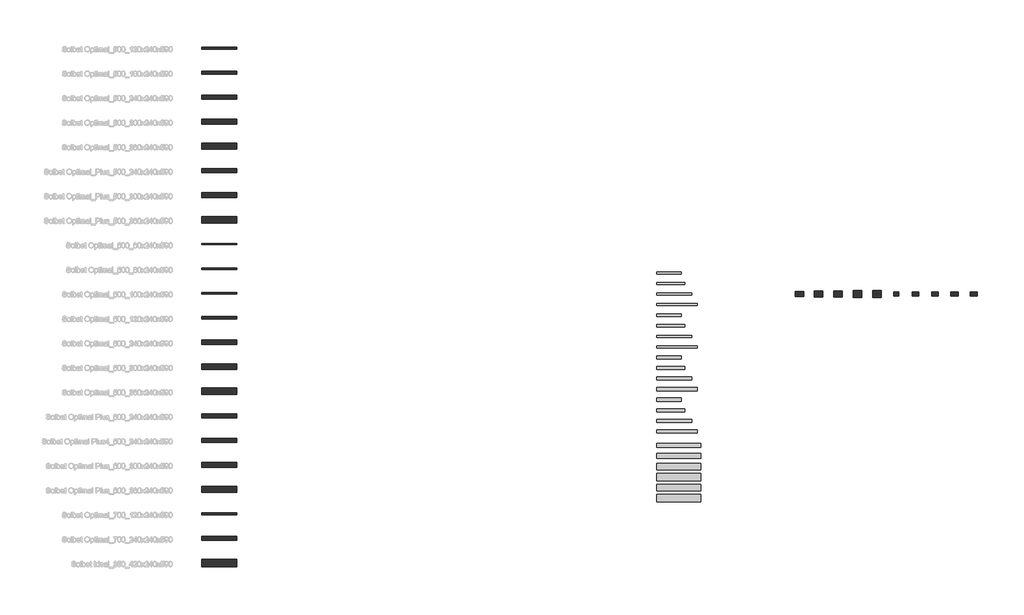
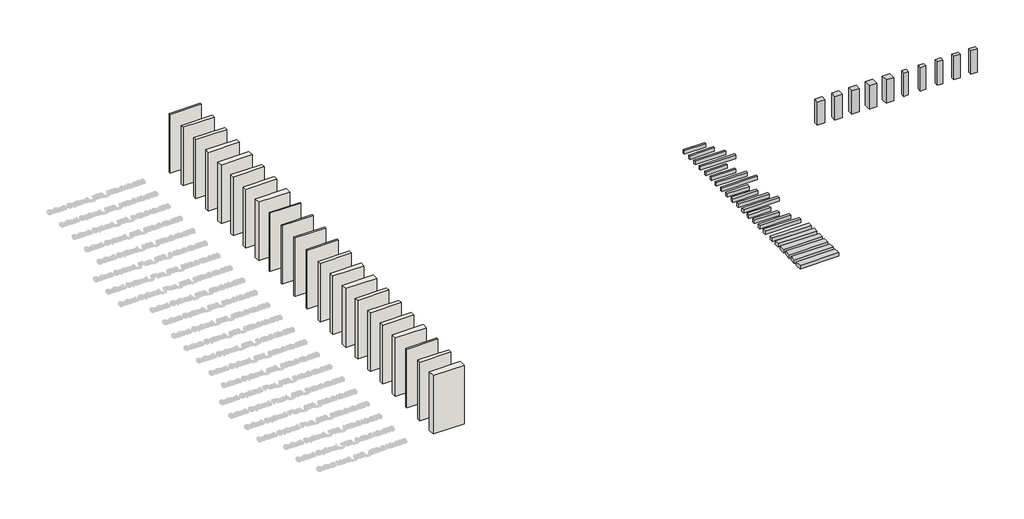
# One storey, part 1 of 23: 22 beams, 22 walls, 10 columns.
"""IFC4 building model written with IfcOpenShell, lengths in millimetres."""

from ifc_helpers import new_model, si_unit, origin, origin_with_axes, place, context, project, spatial, polyline, outline, extrude, transform, mapped, element, save
from components import beam_321660e7, beam_7d97c161, beam_53e4a46f, beam_5c42a2f0, beam_2ec28f14, beam_a7b64b72, beam_9b35020c, beam_6d3bc1db, u24_u24_97426e7e, u30_u30_a07a41db, u36_u36_31054c21, u42_u42_4a57802d, column_701ced0a, column_37c2899f, column_23b8ef21, u30_49fbe9f8, u36_f8813260, u42_3e3212eb

model = new_model("IFC4")

# Units and contexts
model_context = context("Model", 3, world=origin())
ifc_project = project(units=[si_unit("LENGTHUNIT", "METRE", prefix="MILLI")], contexts=[model_context])

# Site, building, storey
site = spatial("IfcSite", under=ifc_project)
building = spatial("IfcBuilding", under=site)
storey = spatial("IfcBuildingStorey", under=building, Name="Ściany", Elevation=0.0)

# Beams
placement = place(None, origin())
beam_shape = beam_321660e7(model_context)
element("IfcBeam", 1, ObjectType="NS R30 120x240x1400 : NS R30 120x240x1400", at=placement, inside=storey, context=model_context, shape_type="MappedRepresentation", body=[
    mapped(beam_shape, transform((37824.8409456, -31.4911539, 0.0), x_axis=(1.0, 0.0, 0.0), y_axis=(0.0, 1.0, 0.0), z_axis=(0.0, 0.0, 1.0))),
])
beam_2_shape = beam_7d97c161(model_context)
element("IfcBeam", 2, ObjectType="NS R30 120x240x1600 : NS R30 120x240x1600", at=placement, inside=storey, context=model_context, shape_type="MappedRepresentation", body=[
    mapped(beam_2_shape, transform((37924.8409456, -631.4911539, 0.0), x_axis=(1.0, 0.0, 0.0), y_axis=(0.0, 1.0, 0.0), z_axis=(0.0, 0.0, 1.0))),
])
beam_3_shape = beam_53e4a46f(model_context)
element("IfcBeam", 3, ObjectType="NS R30 120x240x2000 : NS R30 120x240x2000", at=placement, inside=storey, context=model_context, shape_type="MappedRepresentation", body=[
    mapped(beam_3_shape, transform((38124.8409456, -1231.4911539, 0.0), x_axis=(1.0, 0.0, 0.0), y_axis=(0.0, 1.0, 0.0), z_axis=(0.0, 0.0, 1.0))),
])
beam_4_shape = beam_5c42a2f0(model_context)
element("IfcBeam", 4, ObjectType="NS R30 120x240x2300 : NS R30 120x240x2300", at=placement, inside=storey, context=model_context, shape_type="MappedRepresentation", body=[
    mapped(beam_4_shape, transform((38274.8409456, -1831.4911539, 0.0), x_axis=(1.0, 0.0, 0.0), y_axis=(0.0, 1.0, 0.0), z_axis=(0.0, 0.0, 1.0))),
])
element("IfcBeam", 5, ObjectType="NS R90 120x240x1400 : NS R90 120x240x1400", at=placement, inside=storey, context=model_context, shape_type="MappedRepresentation", body=[
    mapped(beam_shape, transform((37824.8409456, -2431.4911539, 0.0), x_axis=(1.0, 0.0, 0.0), y_axis=(0.0, 1.0, 0.0), z_axis=(0.0, 0.0, 1.0))),
])
element("IfcBeam", 6, ObjectType="NS R90 120x240x1600 : NS R90 120x240x1600", at=placement, inside=storey, context=model_context, shape_type="MappedRepresentation", body=[
    mapped(beam_2_shape, transform((37924.8409456, -3031.4911539, 0.0), x_axis=(1.0, 0.0, 0.0), y_axis=(0.0, 1.0, 0.0), z_axis=(0.0, 0.0, 1.0))),
])
element("IfcBeam", 7, ObjectType="NS R90 120x240x2000 : NS R90 120x240x2000", at=placement, inside=storey, context=model_context, shape_type="MappedRepresentation", body=[
    mapped(beam_3_shape, transform((38124.8409456, -3631.4911539, 0.0), x_axis=(1.0, 0.0, 0.0), y_axis=(0.0, 1.0, 0.0), z_axis=(0.0, 0.0, 1.0))),
])
element("IfcBeam", 8, ObjectType="NS R90 120x240x2300 : NS R90 120x240x2300", at=placement, inside=storey, context=model_context, shape_type="MappedRepresentation", body=[
    mapped(beam_4_shape, transform((38274.8409456, -4231.4911539, 0.0), x_axis=(1.0, 0.0, 0.0), y_axis=(0.0, 1.0, 0.0), z_axis=(0.0, 0.0, 1.0))),
])
beam_5_shape = beam_2ec28f14(model_context)
element("IfcBeam", 9, ObjectType="NS R30 180x240x1400 : NS R30 180x240x1400", at=placement, inside=storey, context=model_context, shape_type="MappedRepresentation", body=[
    mapped(beam_5_shape, transform((37824.8409456, -4831.4911539, 0.0), x_axis=(1.0, 0.0, 0.0), y_axis=(0.0, 1.0, 0.0), z_axis=(0.0, 0.0, 1.0))),
])
beam_6_shape = beam_a7b64b72(model_context)
element("IfcBeam", 10, ObjectType="NS R30 180x240x1600 : NS R30 180x240x1600", at=placement, inside=storey, context=model_context, shape_type="MappedRepresentation", body=[
    mapped(beam_6_shape, transform((37924.8409456, -5431.4911539, 0.0), x_axis=(1.0, 0.0, 0.0), y_axis=(0.0, 1.0, 0.0), z_axis=(0.0, 0.0, 1.0))),
])
beam_7_shape = beam_9b35020c(model_context)
element("IfcBeam", 11, ObjectType="NS R30 180x240x2000 : NS R30 180x240x2000", at=placement, inside=storey, context=model_context, shape_type="MappedRepresentation", body=[
    mapped(beam_7_shape, transform((38124.8409456, -6031.4911539, 0.0), x_axis=(1.0, 0.0, 0.0), y_axis=(0.0, 1.0, 0.0), z_axis=(0.0, 0.0, 1.0))),
])
beam_8_shape = beam_6d3bc1db(model_context)
element("IfcBeam", 12, ObjectType="NS R30 180x240x2300 : NS R30 180x240x2300", at=placement, inside=storey, context=model_context, shape_type="MappedRepresentation", body=[
    mapped(beam_8_shape, transform((38274.8409456, -6631.4911539, 0.0), x_axis=(1.0, 0.0, 0.0), y_axis=(0.0, 1.0, 0.0), z_axis=(0.0, 0.0, 1.0))),
])
element("IfcBeam", 13, ObjectType="NS R90 180x240x1400 : NS R90 180x240x1400", at=placement, inside=storey, context=model_context, shape_type="MappedRepresentation", body=[
    mapped(beam_5_shape, transform((37824.8409456, -7231.4911539, 0.0), x_axis=(1.0, 0.0, 0.0), y_axis=(0.0, 1.0, 0.0), z_axis=(0.0, 0.0, 1.0))),
])
element("IfcBeam", 14, ObjectType="NS R90 180x240x1600 : NS R90 180x240x1600", at=placement, inside=storey, context=model_context, shape_type="MappedRepresentation", body=[
    mapped(beam_6_shape, transform((37924.8409456, -7831.4911539, 0.0), x_axis=(1.0, 0.0, 0.0), y_axis=(0.0, 1.0, 0.0), z_axis=(0.0, 0.0, 1.0))),
])
element("IfcBeam", 15, ObjectType="NS R90 180x240x2000 : NS R90 180x240x2000", at=placement, inside=storey, context=model_context, shape_type="MappedRepresentation", body=[
    mapped(beam_7_shape, transform((38124.8409456, -8431.4911539, 0.0), x_axis=(1.0, 0.0, 0.0), y_axis=(0.0, 1.0, 0.0), z_axis=(0.0, 0.0, 1.0))),
])
element("IfcBeam", 16, ObjectType="NS R90 180x240x2300 : NS R90 180x240x2300", at=placement, inside=storey, context=model_context, shape_type="MappedRepresentation", body=[
    mapped(beam_8_shape, transform((38274.8409456, -9031.4911539, 0.0), x_axis=(1.0, 0.0, 0.0), y_axis=(0.0, 1.0, 0.0), z_axis=(0.0, 0.0, 1.0))),
])
u24_u24_shape = u24_u24_97426e7e(model_context)
element("IfcBeam", 17, ObjectType="U24 : U24", at=placement, inside=storey, context=model_context, shape_type="MappedRepresentation", body=[
    mapped(u24_u24_shape, transform((38374.8409456, -9825.6564065, 120.0), x_axis=(-1.0, 0.0, 0.0), y_axis=(0.0, -1.0, 0.0), z_axis=(0.0, 0.0, 1.0))),
])
u30_u30_shape = u30_u30_a07a41db(model_context)
element("IfcBeam", 18, ObjectType="U30 : U30", at=placement, inside=storey, context=model_context, shape_type="MappedRepresentation", body=[
    mapped(u30_u30_shape, transform((38374.8409456, -10425.6564065, 120.0), x_axis=(-1.0, 0.0, 0.0), y_axis=(0.0, -1.0, 0.0), z_axis=(0.0, 0.0, 1.0))),
])
u36_u36_shape = u36_u36_31054c21(model_context)
element("IfcBeam", 19, ObjectType="U36 : U36", at=placement, inside=storey, context=model_context, shape_type="MappedRepresentation", body=[
    mapped(u36_u36_shape, transform((38374.8409456, -11025.6564065, 120.0), x_axis=(-1.0, 0.0, 0.0), y_axis=(0.0, -1.0, 0.0), z_axis=(0.0, 0.0, 1.0))),
])
element("IfcBeam", 20, ObjectType="U36w : U36w", at=placement, inside=storey, context=model_context, shape_type="MappedRepresentation", body=[
    mapped(u36_u36_shape, transform((38374.8409456, -12225.6564065, 120.0), x_axis=(-1.0, 0.0, 0.0), y_axis=(0.0, -1.0, 0.0), z_axis=(0.0, 0.0, 1.0))),
])
u42_u42_shape = u42_u42_4a57802d(model_context)
element("IfcBeam", 21, ObjectType="U42 : U42", at=placement, inside=storey, context=model_context, shape_type="MappedRepresentation", body=[
    mapped(u42_u42_shape, transform((38374.8409456, -11625.6564065, 120.0), x_axis=(-1.0, 0.0, 0.0), y_axis=(0.0, -1.0, 0.0), z_axis=(0.0, 0.0, 1.0))),
])
element("IfcBeam", 22, ObjectType="U42w : U42w", at=placement, inside=storey, context=model_context, shape_type="MappedRepresentation", body=[
    mapped(u42_u42_shape, transform((38374.8409456, -12825.6564065, 120.0), x_axis=(-1.0, 0.0, 0.0), y_axis=(0.0, -1.0, 0.0), z_axis=(0.0, 0.0, 1.0))),
])

# Columns
column_shape = column_701ced0a(model_context)
element("IfcColumn", 23, ObjectType="2xU30 : 2xU30", at=placement, inside=storey, context=model_context, shape_type="MappedRepresentation", body=[
    mapped(column_shape, transform((45224.8409456, -1225.6564065, 0.0), x_axis=(1.0, 0.0, 0.0), y_axis=(0.0, 1.0, 0.0), z_axis=(0.0, 0.0, 1.0))),
])
column_2_shape = column_37c2899f(model_context)
element("IfcColumn", 24, ObjectType="2xU36 : 2xU36", at=placement, inside=storey, context=model_context, shape_type="MappedRepresentation", body=[
    mapped(column_2_shape, transform((46324.8409456, -1225.6564065, 0.0), x_axis=(1.0, 0.0, 0.0), y_axis=(0.0, 1.0, 0.0), z_axis=(0.0, 0.0, 1.0))),
])
element("IfcColumn", 25, ObjectType="2xU36_z_dociepleniem : 2xU36", at=placement, inside=storey, context=model_context, shape_type="MappedRepresentation", body=[
    mapped(column_2_shape, transform((47424.8409456, -1225.6564065, 0.0), x_axis=(1.0, 0.0, 0.0), y_axis=(0.0, 1.0, 0.0), z_axis=(0.0, 0.0, 1.0))),
])
column_3_shape = column_23b8ef21(model_context)
element("IfcColumn", 26, ObjectType="2xU42 : 2xU42", at=placement, inside=storey, context=model_context, shape_type="MappedRepresentation", body=[
    mapped(column_3_shape, transform((48524.8409456, -1225.6564065, 0.0), x_axis=(1.0, 0.0, 0.0), y_axis=(0.0, 1.0, 0.0), z_axis=(0.0, 0.0, 1.0))),
])
element("IfcColumn", 27, ObjectType="2xU42_z_dociepleniem : 2xU42", at=placement, inside=storey, context=model_context, shape_type="MappedRepresentation", body=[
    mapped(column_3_shape, transform((49624.8409456, -1225.6564065, 0.0), x_axis=(1.0, 0.0, 0.0), y_axis=(0.0, 1.0, 0.0), z_axis=(0.0, 0.0, 1.0))),
])
u30_shape = u30_49fbe9f8(model_context)
element("IfcColumn", 28, ObjectType="U30_slup : U30", at=placement, inside=storey, context=model_context, shape_type="MappedRepresentation", body=[
    mapped(u30_shape, transform((50724.8409456, -1225.6564065, 0.0), x_axis=(1.0, 0.0, 0.0), y_axis=(0.0, 1.0, 0.0), z_axis=(0.0, 0.0, 1.0))),
])
u36_shape = u36_f8813260(model_context)
element("IfcColumn", 29, ObjectType="U36_slup : U36", at=placement, inside=storey, context=model_context, shape_type="MappedRepresentation", body=[
    mapped(u36_shape, transform((51824.8409456, -1225.6564065, 0.0), x_axis=(1.0, 0.0, 0.0), y_axis=(0.0, 1.0, 0.0), z_axis=(0.0, 0.0, 1.0))),
])
element("IfcColumn", 30, ObjectType="U36_z_dociepleniem : U36", at=placement, inside=storey, context=model_context, shape_type="MappedRepresentation", body=[
    mapped(u36_shape, transform((52924.8409456, -1225.6564065, 0.0), x_axis=(1.0, 0.0, 0.0), y_axis=(0.0, 1.0, 0.0), z_axis=(0.0, 0.0, 1.0))),
])
u42_shape = u42_3e3212eb(model_context)
element("IfcColumn", 31, ObjectType="U42_slup : U42", at=placement, inside=storey, context=model_context, shape_type="MappedRepresentation", body=[
    mapped(u42_shape, transform((54024.8409456, -1225.6564065, 0.0), x_axis=(1.0, 0.0, 0.0), y_axis=(0.0, 1.0, 0.0), z_axis=(0.0, 0.0, 1.0))),
])
element("IfcColumn", 32, ObjectType="U42_z_dociepleniem : U42", at=placement, inside=storey, context=model_context, shape_type="MappedRepresentation", body=[
    mapped(u42_shape, transform((55124.8409456, -1225.6564065, 0.0), x_axis=(1.0, 0.0, 0.0), y_axis=(0.0, 1.0, 0.0), z_axis=(0.0, 0.0, 1.0))),
])

# Walls
element("IfcWall", 33, ObjectType="Solbet Optimal_500_120x240x590", at=placement, inside=storey, context=model_context, shape_type="SweptSolid", body=[
    extrude(outline(polyline([(13303.4696017, 12681.5351237), (11303.4696017, 12681.5351237), (11303.4696017, 12801.5351237), (13303.4696017, 12801.5351237), (13303.4696017, 12681.5351237)])), origin_with_axes(), (0.0, 0.0, 1.0), 4000.0),
])
element("IfcWall", 34, ObjectType="Solbet Optimal_500_180x240x590", at=placement, inside=storey, context=model_context, shape_type="SweptSolid", body=[
    extrude(outline(polyline([(13303.4696017, 11258.9766484), (11303.4696017, 11258.9766484), (11303.4696017, 11438.9766484), (13303.4696017, 11438.9766484), (13303.4696017, 11258.9766484)])), origin_with_axes(), (0.0, 0.0, 1.0), 4000.0),
])
element("IfcWall", 35, ObjectType="Solbet Optimal_500_240x240x590", at=placement, inside=storey, context=model_context, shape_type="SweptSolid", body=[
    extrude(outline(polyline([(13303.4696017, 9836.4181731), (11303.4696017, 9836.4181731), (11303.4696017, 10076.4181731), (13303.4696017, 10076.4181731), (13303.4696017, 9836.4181731)])), origin_with_axes(), (0.0, 0.0, 1.0), 4000.0),
])
element("IfcWall", 36, ObjectType="Solbet Optimal_500_300x240x590", at=placement, inside=storey, context=model_context, shape_type="SweptSolid", body=[
    extrude(outline(polyline([(13303.4696017, 8413.8596978), (11303.4696017, 8413.8596978), (11303.4696017, 8713.8596978), (13303.4696017, 8713.8596978), (13303.4696017, 8413.8596978)])), origin_with_axes(), (0.0, 0.0, 1.0), 4000.0),
])
element("IfcWall", 37, ObjectType="Solbet Optimal_500_360x240x590", at=placement, inside=storey, context=model_context, shape_type="SweptSolid", body=[
    extrude(outline(polyline([(13303.4696017, 6991.3012225), (11303.4696017, 6991.3012225), (11303.4696017, 7351.3012225), (13303.4696017, 7351.3012225), (13303.4696017, 6991.3012225)])), origin_with_axes(), (0.0, 0.0, 1.0), 4000.0),
])
element("IfcWall", 38, ObjectType="Solbet Optimal_Plus_500_240x240x590", at=placement, inside=storey, context=model_context, shape_type="SweptSolid", body=[
    extrude(outline(polyline([(13303.4696017, 5658.7427472), (11303.4696017, 5658.7427472), (11303.4696017, 5898.7427472), (13303.4696017, 5898.7427472), (13303.4696017, 5658.7427472)])), origin_with_axes(), (0.0, 0.0, 1.0), 4000.0),
])
element("IfcWall", 39, ObjectType="Solbet Optimal_Plus_500_300x240x590", at=placement, inside=storey, context=model_context, shape_type="SweptSolid", body=[
    extrude(outline(polyline([(13303.4696017, 4236.1842719), (11303.4696017, 4236.1842719), (11303.4696017, 4536.1842719), (13303.4696017, 4536.1842719), (13303.4696017, 4236.1842719)])), origin_with_axes(), (0.0, 0.0, 1.0), 4000.0),
])
element("IfcWall", 40, ObjectType="Solbet Optimal_Plus_500_360x240x590", at=placement, inside=storey, context=model_context, shape_type="SweptSolid", body=[
    extrude(outline(polyline([(13303.4696017, 2813.6257967), (11303.4696017, 2813.6257967), (11303.4696017, 3173.6257967), (13303.4696017, 3173.6257967), (13303.4696017, 2813.6257967)])), origin_with_axes(), (0.0, 0.0, 1.0), 4000.0),
])
element("IfcWall", 41, ObjectType="Solbet Optimal_600_60x240x590", at=placement, inside=storey, context=model_context, shape_type="SweptSolid", body=[
    extrude(outline(polyline([(13303.4696017, 1571.0673214), (11303.4696017, 1571.0673214), (11303.4696017, 1631.0673214), (13303.4696017, 1631.0673214), (13303.4696017, 1571.0673214)])), origin_with_axes(), (0.0, 0.0, 1.0), 4000.0),
])
element("IfcWall", 42, ObjectType="Solbet Optimal_600_80x240x590", at=placement, inside=storey, context=model_context, shape_type="SweptSolid", body=[
    extrude(outline(polyline([(13303.4696017, 168.5088461), (11303.4696017, 168.5088461), (11303.4696017, 248.5088461), (13303.4696017, 248.5088461), (13303.4696017, 168.5088461)])), origin_with_axes(), (0.0, 0.0, 1.0), 4000.0),
])
element("IfcWall", 43, ObjectType="Solbet Optimal_600_100x240x590", at=placement, inside=storey, context=model_context, shape_type="SweptSolid", body=[
    extrude(outline(polyline([(13303.4696017, -1234.0496292), (11303.4696017, -1234.0496292), (11303.4696017, -1134.0496292), (13303.4696017, -1134.0496292), (13303.4696017, -1234.0496292)])), origin_with_axes(), (0.0, 0.0, 1.0), 4000.0),
])
element("IfcWall", 44, ObjectType="Solbet Optimal_600_120x240x590", at=placement, inside=storey, context=model_context, shape_type="SweptSolid", body=[
    extrude(outline(polyline([(13303.4696017, -2636.6081045), (11303.4696017, -2636.6081045), (11303.4696017, -2516.6081045), (13303.4696017, -2516.6081045), (13303.4696017, -2636.6081045)])), origin_with_axes(), (0.0, 0.0, 1.0), 4000.0),
])
element("IfcWall", 45, ObjectType="Solbet Optimal_600_240x240x590", at=placement, inside=storey, context=model_context, shape_type="SweptSolid", body=[
    extrude(outline(polyline([(13303.4696017, -4089.1665798), (11303.4696017, -4089.1665798), (11303.4696017, -3849.1665798), (13303.4696017, -3849.1665798), (13303.4696017, -4089.1665798)])), origin_with_axes(), (0.0, 0.0, 1.0), 4000.0),
])
element("IfcWall", 46, ObjectType="Solbet Optimal_600_300x240x590", at=placement, inside=storey, context=model_context, shape_type="SweptSolid", body=[
    extrude(outline(polyline([(13303.4696017, -5511.7250551), (11303.4696017, -5511.7250551), (11303.4696017, -5211.7250551), (13303.4696017, -5211.7250551), (13303.4696017, -5511.7250551)])), origin_with_axes(), (0.0, 0.0, 1.0), 4000.0),
])
element("IfcWall", 47, ObjectType="Solbet Optimal_600_360x240x590", at=placement, inside=storey, context=model_context, shape_type="SweptSolid", body=[
    extrude(outline(polyline([(13303.4696017, -6934.2835304), (11303.4696017, -6934.2835304), (11303.4696017, -6574.2835304), (13303.4696017, -6574.2835304), (13303.4696017, -6934.2835304)])), origin_with_axes(), (0.0, 0.0, 1.0), 4000.0),
])
element("IfcWall", 48, ObjectType="Solbet Optimal Plus_600_240x240x590", at=placement, inside=storey, context=model_context, shape_type="SweptSolid", body=[
    extrude(outline(polyline([(13303.4696017, -8266.8420057), (11303.4696017, -8266.8420057), (11303.4696017, -8026.8420057), (13303.4696017, -8026.8420057), (13303.4696017, -8266.8420057)])), origin_with_axes(), (0.0, 0.0, 1.0), 4000.0),
])
element("IfcWall", 49, ObjectType="Solbet Optimal Plus4_600_240x240x590", at=placement, inside=storey, context=model_context, shape_type="SweptSolid", body=[
    extrude(outline(polyline([(13303.4696017, -9659.400481), (11303.4696017, -9659.400481), (11303.4696017, -9419.400481), (13303.4696017, -9419.400481), (13303.4696017, -9659.400481)])), origin_with_axes(), (0.0, 0.0, 1.0), 4000.0),
])
element("IfcWall", 50, ObjectType="Solbet Optimal Plus_600_300x240x590", at=placement, inside=storey, context=model_context, shape_type="SweptSolid", body=[
    extrude(outline(polyline([(13303.4696017, -11081.9589563), (11303.4696017, -11081.9589563), (11303.4696017, -10781.9589563), (13303.4696017, -10781.9589563), (13303.4696017, -11081.9589563)])), origin_with_axes(), (0.0, 0.0, 1.0), 4000.0),
])
element("IfcWall", 51, ObjectType="Solbet Optimal Plus_600_360x240x590", at=placement, inside=storey, context=model_context, shape_type="SweptSolid", body=[
    extrude(outline(polyline([(13303.4696017, -12504.5174315), (11303.4696017, -12504.5174315), (11303.4696017, -12144.5174315), (13303.4696017, -12144.5174315), (13303.4696017, -12504.5174315)])), origin_with_axes(), (0.0, 0.0, 1.0), 4000.0),
])
element("IfcWall", 52, ObjectType="Solbet Optimal_700_120x240x590", at=placement, inside=storey, context=model_context, shape_type="SweptSolid", body=[
    extrude(outline(polyline([(13303.4696017, -13777.0759068), (11303.4696017, -13777.0759068), (11303.4696017, -13657.0759068), (13303.4696017, -13657.0759068), (13303.4696017, -13777.0759068)])), origin_with_axes(), (0.0, 0.0, 1.0), 4000.0),
])
element("IfcWall", 53, ObjectType="Solbet Optimal_700_240x240x590", at=placement, inside=storey, context=model_context, shape_type="SweptSolid", body=[
    extrude(outline(polyline([(13303.4696017, -15229.6343821), (11303.4696017, -15229.6343821), (11303.4696017, -14989.6343821), (13303.4696017, -14989.6343821), (13303.4696017, -15229.6343821)])), origin_with_axes(), (0.0, 0.0, 1.0), 4000.0),
])
element("IfcWall", 54, ObjectType="Solbet Ideal_350_420x240x590", at=placement, inside=storey, context=model_context, shape_type="SweptSolid", body=[
    extrude(outline(polyline([(13303.4696017, -16712.1928574), (11303.4696017, -16712.1928574), (11303.4696017, -16292.1928574), (13303.4696017, -16292.1928574), (13303.4696017, -16712.1928574)])), origin_with_axes(), (0.0, 0.0, 1.0), 4000.0),
])

save(model, "model.ifc")
